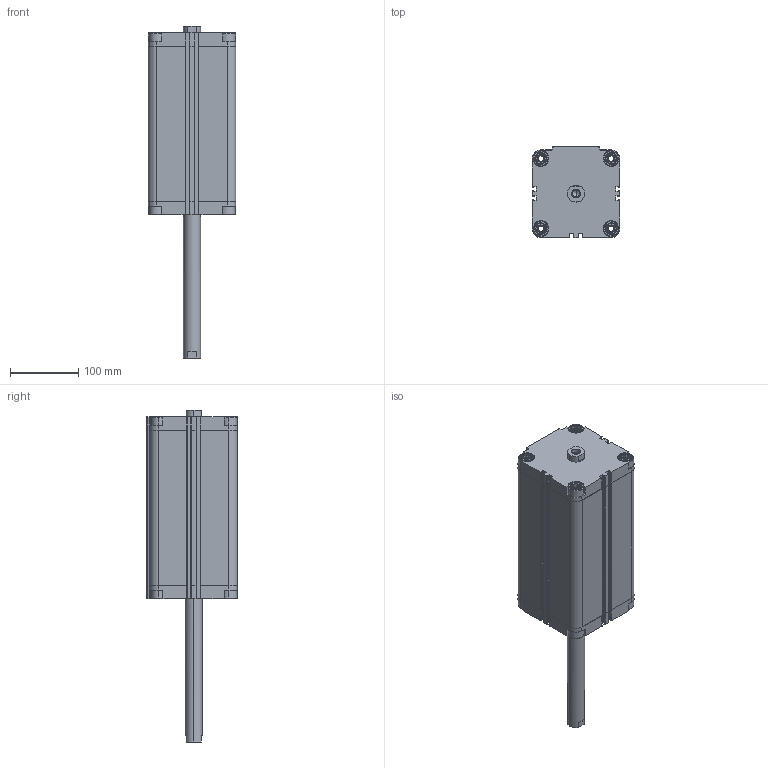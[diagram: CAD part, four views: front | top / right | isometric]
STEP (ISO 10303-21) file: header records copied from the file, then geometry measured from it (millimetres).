
FILE_DESCRIPTION (( 'STEP AP203' ), '1' );
FILE_NAME ('CDVU100-200F-P.STEP', '2020-07-24T18:43:45', ( '' ), ( '' ), 'SwSTEP 2.0', 'SolidWorks 2019', '' );
FILE_SCHEMA (( 'CONFIG_CONTROL_DESIGN' ));
Length unit declared in the file: millimetre
Products named in the file (1): CDVU100-200F-P
Bounding box: 128 x 133 x 486.5 mm (x, y, z)
Volume: 2807901.8 mm3; surface area: 384652.8 mm2
Topology: 2 solids, 2 shells, 670 faces, 1812 edges, 1188 vertices
Faces by surface type: plane 394, cylinder 212, cone 64
Entity records: 21267 total; most frequent: CARTESIAN_POINT 4239, ORIENTED_EDGE 3608, DIRECTION 3458, EDGE_CURVE 1804, VERTEX_POINT 1188, AXIS2_PLACEMENT_3D 1175, LINE 1108, VECTOR 1108
